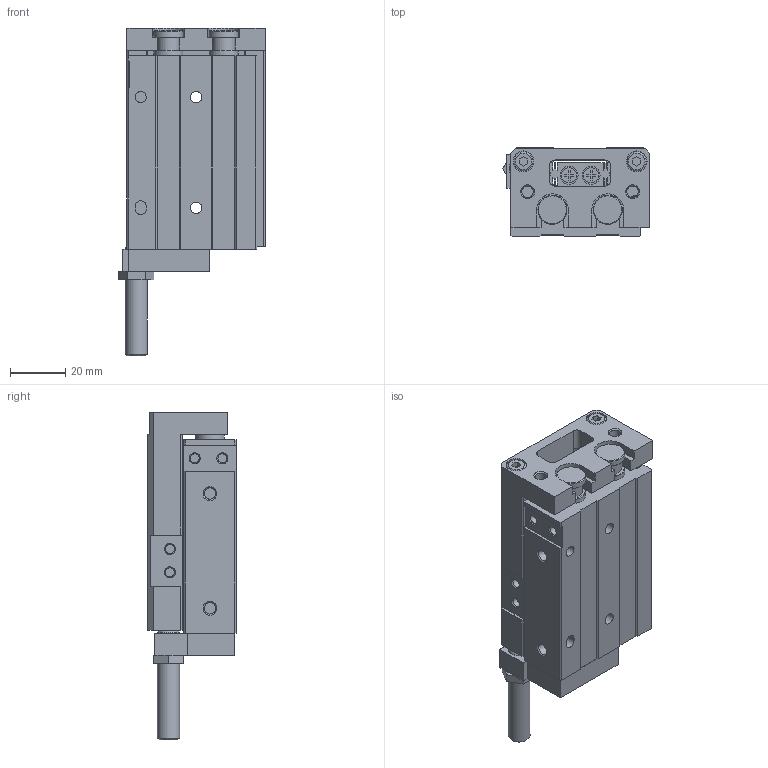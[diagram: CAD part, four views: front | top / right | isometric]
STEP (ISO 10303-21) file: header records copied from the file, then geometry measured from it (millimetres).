
FILE_DESCRIPTION( ( 'STEP AP214' ), '1' );
FILE_NAME( 'C:/Users/EMC02301/Desktop/ELS图纸/ELS12X20-S-BF.stp', '2026-08-05T05:53:06', ( 'License CC BY-ND 4.0' ), ( 'CADENAS' ), ' ', 'PARTsolutions', ' ' );
FILE_SCHEMA( ( 'AUTOMOTIVE_DESIGN { 1 0 10303 214 1 1 1 1 }' ) );
Length unit declared in the file: millimetre
Products named in the file (4): ELS12X20-S-BF(0)(); _ELS12X20-S-BF(HX-07)(HX-07-1)(0-body); _ELS12X20-S-BF(0-rod); _FJ-ELS12-BF-(BF)
Assembly tree (3 placements, depth 2):
  ELS12X20-S-BF(0)()
    _ELS12X20-S-BF(HX-07)(HX-07-1)(0-body)
    _ELS12X20-S-BF(0-rod)
    _FJ-ELS12-BF-(BF)
Bounding box: 52.95 x 32 x 118.6 mm (x, y, z)
Volume: 108959.5 mm3; surface area: 46059.1 mm2
Topology: 3 solids, 3 shells, 477 faces, 1169 edges, 767 vertices
Faces by surface type: plane 360, cylinder 89, cone 26, torus 2
Full cylindrical faces by diameter (mm): 2.9 x1, 3.242 x12, 4 x2, 4.134 x6, 4.2 x2, 5.5 x8, 6 x5, 6.5 x12, 7 x2, 7.5 x6, 8 x2, 9 x4, 10.5 x6, 12 x4, 15.1 x2
Entity records: 17246 total; most frequent: CARTESIAN_POINT 2293, DIRECTION 2232, ORIENTED_EDGE 2112, EDGE_CURVE 1056, LINE 842, VECTOR 842, VERTEX_POINT 756, AXIS2_PLACEMENT_3D 695
